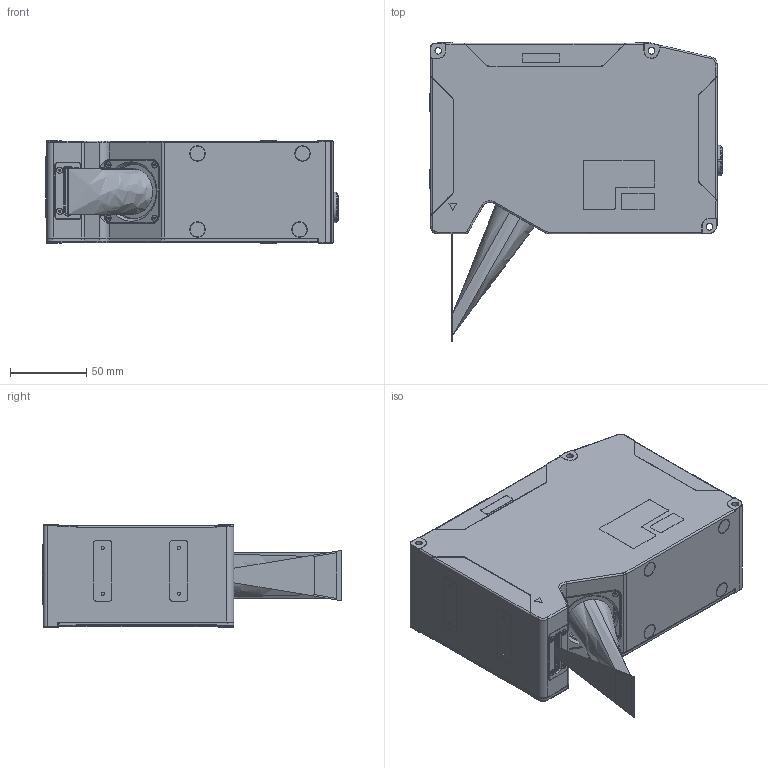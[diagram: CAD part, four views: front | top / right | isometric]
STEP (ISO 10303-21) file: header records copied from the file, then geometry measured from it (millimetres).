
FILE_DESCRIPTION (( 'STEP AP214' ), '1' );
FILE_NAME ('SR9061-01-0假蚾尨砩芞.STEP', '2024-08-19T02:28:54', ( 'Windows 蚚誧' ), ( 'Microsoft' ), 'SwSTEP 2.0', 'SolidWorks 2020', '' );
FILE_SCHEMA (( 'AUTOMOTIVE_DESIGN' ));
Length unit declared in the file: millimetre
Products named in the file (1): SR9061-01-0假蚾尨砩芞
Bounding box: 191.8 x 196.3 x 67 mm (x, y, z)
Surface area: 173315.1 mm2 (no closed solid volume)
Topology: 0 solids, 730 shells, 4910 faces, 15043 edges, 11066 vertices
Faces by surface type: plane 2879, bspline 802, cylinder 718, cone 462, torus 49
Entity records: 272986 total; most frequent: CARTESIAN_POINT 90313, ORIENTED_EDGE 25637, DIRECTION 23432, EDGE_CURVE 14937, VERTEX_POINT 11066, LINE 8928, VECTOR 8928, AXIS2_PLACEMENT_3D 7252
